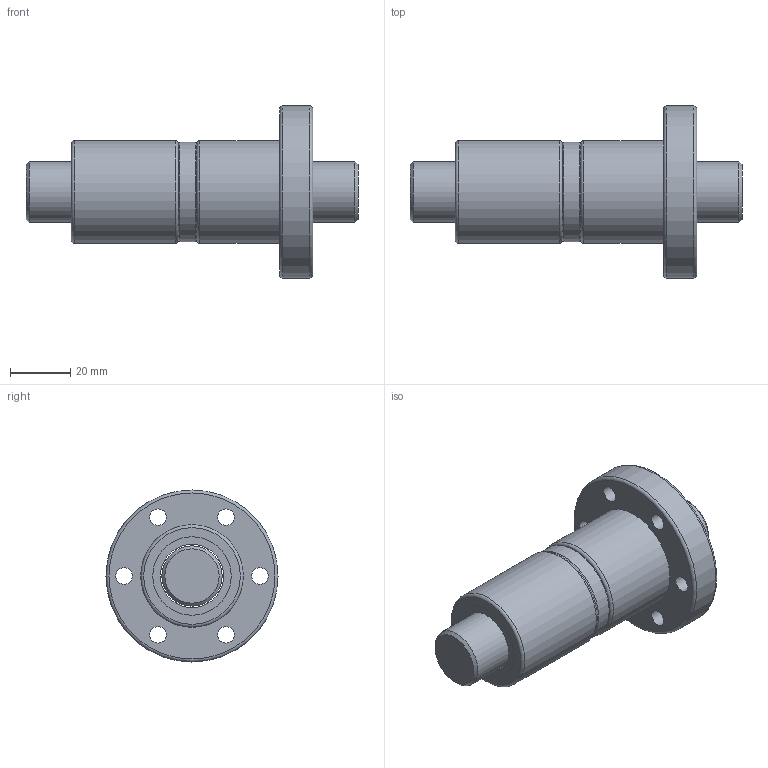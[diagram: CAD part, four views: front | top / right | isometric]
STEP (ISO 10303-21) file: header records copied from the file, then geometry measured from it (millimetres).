
FILE_DESCRIPTION(/* description */ (''),/* implementation_level */ '2;1');
FILE_NAME(/* name */ 'DFI2004',/* time_stamp */ '2007-10-26T11:49:11+08:00',/* author */ (''),/* organization */ (''),/* preprocessor_version */ 'ST-DEVELOPER v9',/* originating_system */ 'EDS PLM SOLUTIONS - UNIGRAPHICS NX 1.0',/* authorisation */ '');
FILE_SCHEMA (('CONFIG_CONTROL_DESIGN'));
Length unit declared in the file: millimetre
Products named in the file (1): FANNDA0400fk
Bounding box: 110 x 57 x 57 mm (x, y, z)
Volume: 93909.7 mm3; surface area: 31918.1 mm2
Topology: 6 solids, 6 shells, 56 faces, 101 edges, 66 vertices
Faces by surface type: cylinder 26, plane 21, torus 7, cone 2
Full cylindrical faces by diameter (mm): 5.5 x6, 9.5 x6, 20 x1, 21 x5, 26 x4, 33 x1, 34 x2, 57 x1
Entity records: 1294 total; most frequent: DIRECTION 236, CARTESIAN_POINT 179, EDGE_LOOP 122, ORIENTED_EDGE 122, AXIS2_PLACEMENT_3D 118, FACE_BOUND 99, VERTEX_POINT 61, EDGE_CURVE 61
